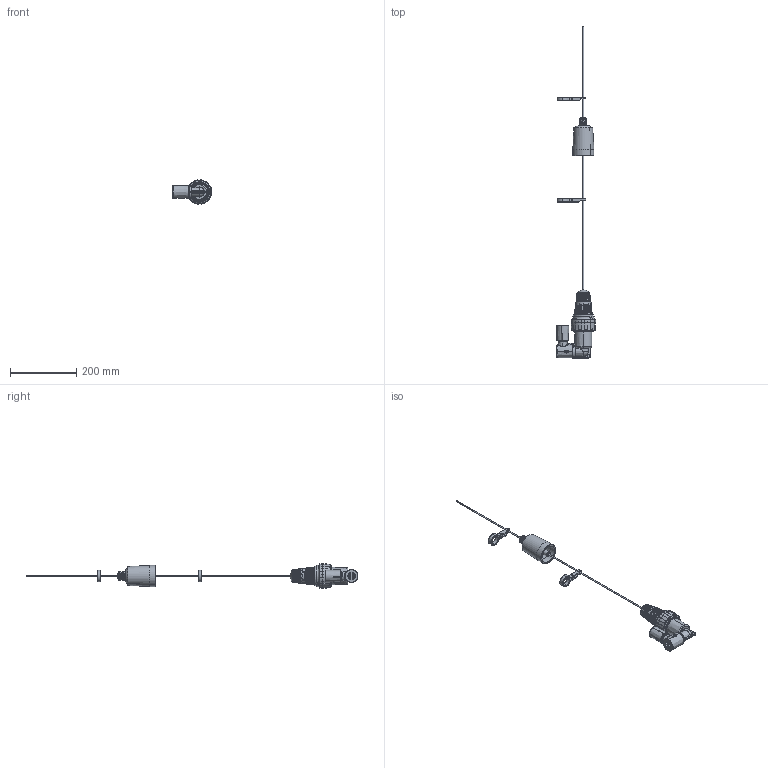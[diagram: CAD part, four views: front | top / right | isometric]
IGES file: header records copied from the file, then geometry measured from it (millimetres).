
Start section: SolidWorks IGES file using analytic representation for surfaces
Global section: file name: P:\Drawings CAD & PDF's for Customers\Brine Tanks  distributor misc\484 Brine Valve\H7070 484 Brine Valve.IGS; native system: SolidWorks 2017; preprocessor: SolidWorks 2017; author: marshall; date: 180105.142409; units: inch
Bounding box: 118.31 x 1000.03 x 74.07 mm (x, y, z)
Surface area: 135073.7 mm2 (no closed solid volume)
Topology: 0 solids, 0 shells, 619 faces, 11009 edges, 10998 vertices
Faces by surface type: revolution 320, bspline 299
